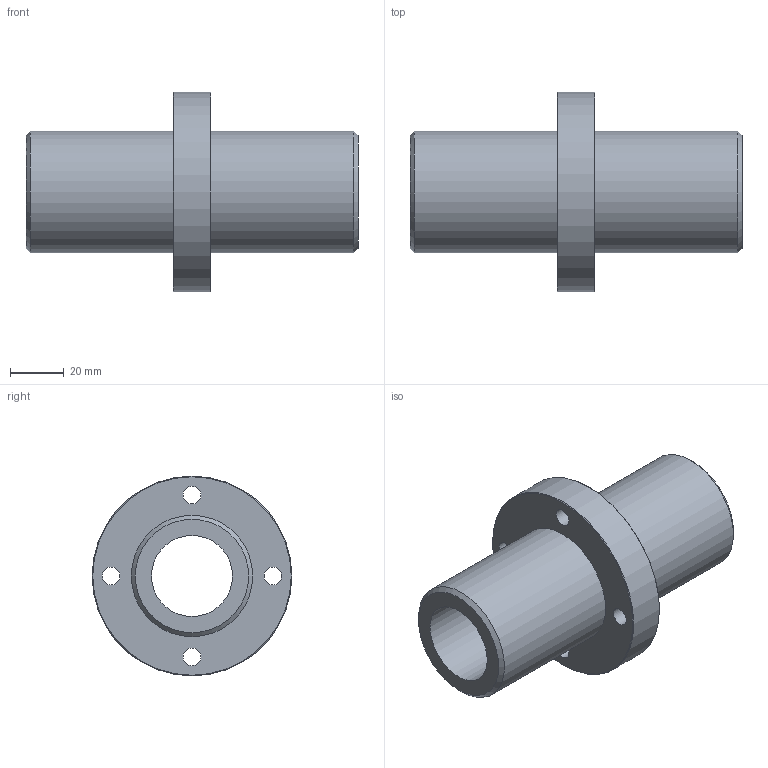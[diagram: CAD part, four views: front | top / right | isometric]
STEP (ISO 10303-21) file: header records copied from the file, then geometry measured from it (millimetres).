
FILE_DESCRIPTION(('STEP AP203'),'1');
FILE_NAME('//192.168.1.1/share/s-4 技術開発/s-4-4_CAD/s-4-4-3_見直し済み/PBC LINEAR修正済み/CFPJ/CFPJ_TOP/CFPJR/CFPJR30.step','2022-03-24T04:15:41',(' '),(' '),'Spatial InterOp 3D',' ',' ');
FILE_SCHEMA(('CONFIG_CONTROL_DESIGN'));
Length unit declared in the file: millimetre
Products named in the file (1): 1
Bounding box: 123 x 74 x 74 mm (x, y, z)
Volume: 142899.3 mm3; surface area: 38345.7 mm2
Topology: 1 solids, 1 shells, 24 faces, 50 edges, 34 vertices
Faces by surface type: cylinder 12, plane 8, cone 4
Full cylindrical faces by diameter (mm): 6.6 x4, 11 x4, 30 x1, 45 x2, 74 x1
Entity records: 588 total; most frequent: DIRECTION 106, CARTESIAN_POINT 81, EDGE_LOOP 56, ORIENTED_EDGE 56, AXIS2_PLACEMENT_3D 53, FACE_OUTER_BOUND 36, EDGE_CURVE 28, VERTEX_POINT 28
